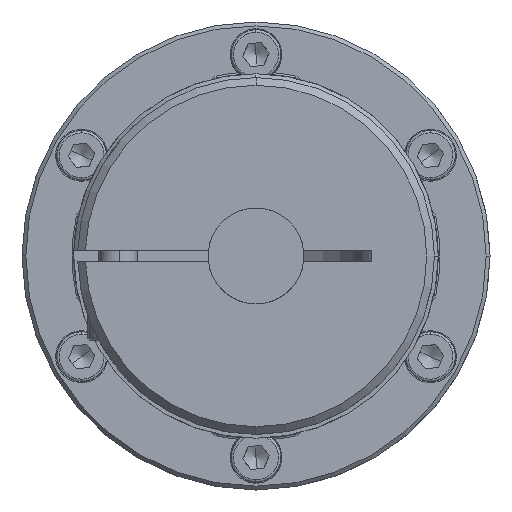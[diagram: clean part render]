
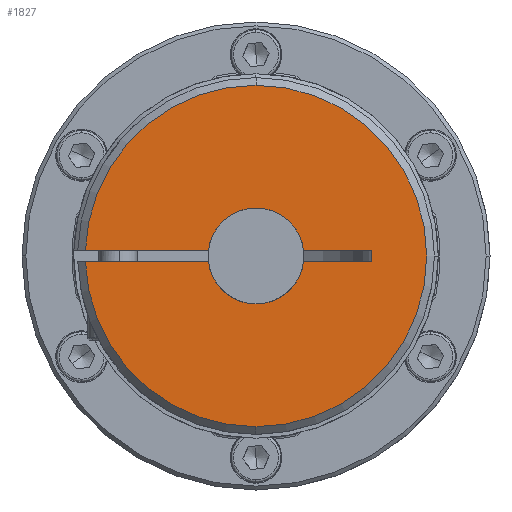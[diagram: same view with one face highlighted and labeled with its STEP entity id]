
A CAD part, left-side view. The second image highlights one B-rep face of the part: STEP entity #1827.
In plain terms, the highlighted planar face has unit normal (-1, 0, 0).
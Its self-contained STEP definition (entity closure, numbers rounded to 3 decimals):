
#1827=ADVANCED_FACE('',(#4317),#4318,.T.);
#4317=FACE_OUTER_BOUND('',#7575,.T.);
#4318=PLANE('',#7576);
#7575=EDGE_LOOP('',(#13156,#13157,#13158,#13159,#13160,#13161,#13162,#13163,#13164,#13165,#13166,#13167));
#7576=AXIS2_PLACEMENT_3D('',#13168,#13169,#13170);
#13156=ORIENTED_EDGE('',*,*,#21397,.T.);
#13157=ORIENTED_EDGE('',*,*,#21408,.T.);
#13158=ORIENTED_EDGE('',*,*,#21415,.F.);
#13159=ORIENTED_EDGE('',*,*,#21412,.T.);
#13160=ORIENTED_EDGE('',*,*,#21421,.T.);
#13161=ORIENTED_EDGE('',*,*,#21404,.T.);
#13162=ORIENTED_EDGE('',*,*,#21392,.T.);
#13163=ORIENTED_EDGE('',*,*,#21422,.T.);
#13164=ORIENTED_EDGE('',*,*,#20842,.F.);
#13165=ORIENTED_EDGE('',*,*,#20847,.F.);
#13166=ORIENTED_EDGE('',*,*,#21423,.F.);
#13167=ORIENTED_EDGE('',*,*,#21424,.F.);
#13168=CARTESIAN_POINT('',(-158.8,45.009,45.034));
#13169=DIRECTION('',(-1.0,0.,0.0));
#13170=DIRECTION('',(0.,-1.0,0.0));
#20842=EDGE_CURVE('',#25699,#25701,#25702,.T.);
#20847=EDGE_CURVE('',#25707,#25699,#25710,.T.);
#21392=EDGE_CURVE('',#26619,#26623,#26625,.T.);
#21397=EDGE_CURVE('',#26634,#26632,#26635,.T.);
#21404=EDGE_CURVE('',#26645,#26619,#26646,.T.);
#21408=EDGE_CURVE('',#26632,#26651,#26653,.T.);
#21412=EDGE_CURVE('',#26658,#26656,#26659,.T.);
#21415=EDGE_CURVE('',#26658,#26651,#26662,.F.);
#21421=EDGE_CURVE('',#26656,#26645,#26670,.T.);
#21422=EDGE_CURVE('',#26623,#25701,#26671,.T.);
#21423=EDGE_CURVE('',#26672,#25707,#26673,.T.);
#21424=EDGE_CURVE('',#26634,#26672,#26674,.F.);
#25699=VERTEX_POINT('',#32746);
#25701=VERTEX_POINT('',#32749);
#25702=CIRCLE('',#32750,44.5);
#25707=VERTEX_POINT('',#32764);
#25710=CIRCLE('',#32768,44.5);
#26619=VERTEX_POINT('',#34455);
#26623=VERTEX_POINT('',#34460);
#26625=CIRCLE('',#34463,12.5);
#26632=VERTEX_POINT('',#34471);
#26634=VERTEX_POINT('',#34474);
#26635=CIRCLE('',#34475,12.5);
#26645=VERTEX_POINT('',#34487);
#26646=CIRCLE('',#34488,12.5);
#26651=VERTEX_POINT('',#34499);
#26653=CIRCLE('',#34502,12.5);
#26656=VERTEX_POINT('',#34505);
#26658=VERTEX_POINT('',#34507);
#26659=LINE('',#34508,#34509);
#26662=LINE('',#34512,#34513);
#26670=LINE('',#34524,#34525);
#26671=LINE('',#34526,#34527);
#26672=VERTEX_POINT('',#34528);
#26673=CIRCLE('',#34529,44.5);
#26674=LINE('',#34530,#34531);
#32746=CARTESIAN_POINT('',(-158.8,0.,-44.5));
#32749=CARTESIAN_POINT('',(-158.8,44.475,-1.5));
#32750=AXIS2_PLACEMENT_3D('',#40864,#40865,#40866);
#32764=CARTESIAN_POINT('',(-158.8,0.,44.5));
#32768=AXIS2_PLACEMENT_3D('',#40871,#40872,#40873);
#34455=CARTESIAN_POINT('',(-158.8,0.,-12.5));
#34460=CARTESIAN_POINT('',(-158.8,12.41,-1.5));
#34463=AXIS2_PLACEMENT_3D('',#41673,#41674,#41675);
#34471=CARTESIAN_POINT('',(-158.8,0.,12.5));
#34474=CARTESIAN_POINT('',(-158.8,12.41,1.5));
#34475=AXIS2_PLACEMENT_3D('',#41681,#41682,#41683);
#34487=CARTESIAN_POINT('',(-158.8,-12.41,-1.5));
#34488=AXIS2_PLACEMENT_3D('',#41695,#41696,#41697);
#34499=CARTESIAN_POINT('',(-158.8,-12.41,1.5));
#34502=AXIS2_PLACEMENT_3D('',#41700,#41701,#41702);
#34505=CARTESIAN_POINT('',(-158.8,-30.0,-1.5));
#34507=CARTESIAN_POINT('',(-158.8,-30.0,1.5));
#34508=CARTESIAN_POINT('',(-158.8,-30.0,1.5));
#34509=VECTOR('',#41709,3.0);
#34512=CARTESIAN_POINT('',(-158.8,44.475,1.5));
#34513=VECTOR('',#41713,74.475);
#34524=CARTESIAN_POINT('',(-158.8,-30.0,-1.5));
#34525=VECTOR('',#41717,74.475);
#34526=CARTESIAN_POINT('',(-158.8,-30.0,-1.5));
#34527=VECTOR('',#41718,74.475);
#34528=CARTESIAN_POINT('',(-158.8,44.475,1.5));
#34529=AXIS2_PLACEMENT_3D('',#41719,#41720,#41721);
#34530=CARTESIAN_POINT('',(-158.8,44.475,1.5));
#34531=VECTOR('',#41722,74.475);
#40864=CARTESIAN_POINT('',(-158.8,0.,0.));
#40865=DIRECTION('',(1.0,0.,0.0));
#40866=DIRECTION('',(0.0,0.0,1.0));
#40871=CARTESIAN_POINT('',(-158.8,0.,0.));
#40872=DIRECTION('',(1.0,0.,0.0));
#40873=DIRECTION('',(0.0,0.0,1.0));
#41673=CARTESIAN_POINT('',(-158.8,0.0,0.));
#41674=DIRECTION('',(1.0,0.,0.));
#41675=DIRECTION('',(0.0,0.,-1.0));
#41681=CARTESIAN_POINT('',(-158.8,0.0,0.));
#41682=DIRECTION('',(1.0,0.,0.));
#41683=DIRECTION('',(0.0,0.,-1.0));
#41695=CARTESIAN_POINT('',(-158.8,0.0,0.));
#41696=DIRECTION('',(1.0,0.,0.));
#41697=DIRECTION('',(0.0,0.,-1.0));
#41700=CARTESIAN_POINT('',(-158.8,0.0,0.));
#41701=DIRECTION('',(1.0,0.,0.));
#41702=DIRECTION('',(0.0,0.,-1.0));
#41709=DIRECTION('',(0.0,-0.0,-1.0));
#41713=DIRECTION('',(0.,-1.0,0.0));
#41717=DIRECTION('',(0.,1.0,0.0));
#41718=DIRECTION('',(0.,1.0,0.0));
#41719=CARTESIAN_POINT('',(-158.8,0.,0.));
#41720=DIRECTION('',(1.0,0.,0.0));
#41721=DIRECTION('',(0.0,0.0,1.0));
#41722=DIRECTION('',(0.,-1.0,0.0));
